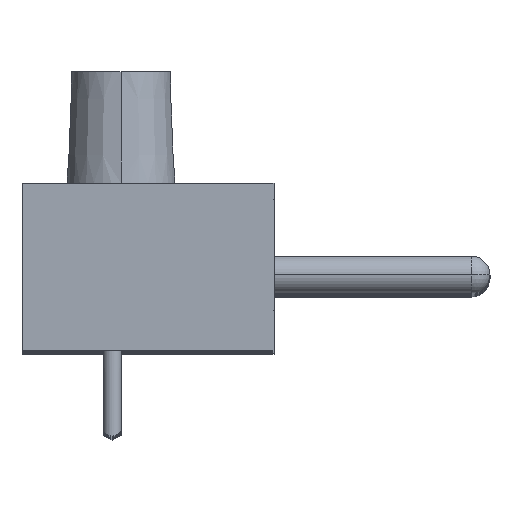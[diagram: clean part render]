
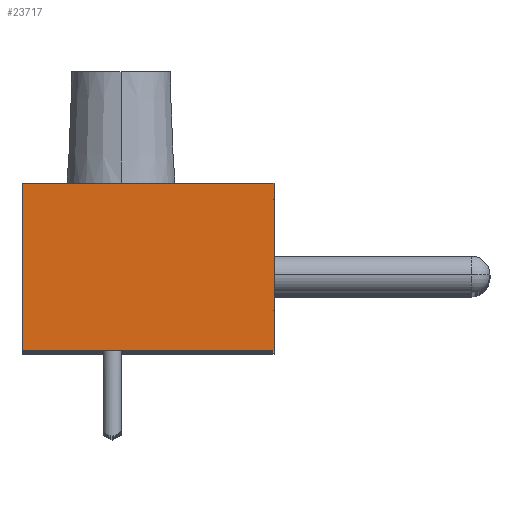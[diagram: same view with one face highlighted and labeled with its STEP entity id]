
A CAD part, top view. The second image highlights one B-rep face of the part: STEP entity #23717.
In plain terms, the highlighted planar face has unit normal (0, 0, 1).
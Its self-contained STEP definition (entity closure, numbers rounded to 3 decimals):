
#22597 = VERTEX_POINT ( 'NONE', #40333 ) ;
#22599 = EDGE_CURVE ( 'NONE', #22597, #22600, #40332, .T. ) ;
#22600 = VERTEX_POINT ( 'NONE', #40328 ) ;
#23646 = VERTEX_POINT ( 'NONE', #42050 ) ;
#23648 = EDGE_CURVE ( 'NONE', #23646, #22597, #42049, .T. ) ;
#23717 = ADVANCED_FACE ( 'NONE', ( #42114 ), #42113, .T. ) ;
#23718 = EDGE_LOOP ( 'NONE', ( #23719, #23722, #23723, #23724 ) ) ;
#23719 = ORIENTED_EDGE ( 'NONE', *, *, #23720, .F. ) ;
#23720 = EDGE_CURVE ( 'NONE', #22600, #23721, #42108, .T. ) ;
#23721 = VERTEX_POINT ( 'NONE', #42104 ) ;
#23722 = ORIENTED_EDGE ( 'NONE', *, *, #22599, .F. ) ;
#23723 = ORIENTED_EDGE ( 'NONE', *, *, #23648, .F. ) ;
#23724 = ORIENTED_EDGE ( 'NONE', *, *, #23725, .F. ) ;
#23725 = EDGE_CURVE ( 'NONE', #23721, #23646, #42103, .T. ) ;
#40328 = CARTESIAN_POINT ( 'NONE',  ( -7., 0., 0. ) ) ;
#40329 = DIRECTION ( 'NONE',  ( -1., 0., 0. ) ) ;
#40330 = VECTOR ( 'NONE', #40329, 1000. ) ;
#40331 = CARTESIAN_POINT ( 'NONE',  ( -7., 0., 0. ) ) ;
#40332 = LINE ( 'NONE', #40331, #40330 ) ;
#40333 = CARTESIAN_POINT ( 'NONE',  ( 7., 0., 0. ) ) ;
#42046 = DIRECTION ( 'NONE',  ( 0., -1., 0. ) ) ;
#42047 = VECTOR ( 'NONE', #42046, 1000. ) ;
#42048 = CARTESIAN_POINT ( 'NONE',  ( 7., 0., 0. ) ) ;
#42049 = LINE ( 'NONE', #42048, #42047 ) ;
#42050 = CARTESIAN_POINT ( 'NONE',  ( 7., 9.3, 0. ) ) ;
#42100 = DIRECTION ( 'NONE',  ( 1., 0., 0. ) ) ;
#42101 = VECTOR ( 'NONE', #42100, 1000. ) ;
#42102 = CARTESIAN_POINT ( 'NONE',  ( 7., 9.3, 0. ) ) ;
#42103 = LINE ( 'NONE', #42102, #42101 ) ;
#42104 = CARTESIAN_POINT ( 'NONE',  ( -7., 9.3, 0. ) ) ;
#42105 = DIRECTION ( 'NONE',  ( 0., 1., 0. ) ) ;
#42106 = VECTOR ( 'NONE', #42105, 1000. ) ;
#42107 = CARTESIAN_POINT ( 'NONE',  ( -7., 0., 0. ) ) ;
#42108 = LINE ( 'NONE', #42107, #42106 ) ;
#42109 = DIRECTION ( 'NONE',  ( 1., 0., 0. ) ) ;
#42110 = DIRECTION ( 'NONE',  ( 0., 0., 1. ) ) ;
#42111 = CARTESIAN_POINT ( 'NONE',  ( -7., 9.3, 0. ) ) ;
#42112 = AXIS2_PLACEMENT_3D ( 'NONE', #42111, #42110, #42109 ) ;
#42113 = PLANE ( 'NONE',  #42112 ) ;
#42114 = FACE_OUTER_BOUND ( 'NONE', #23718, .T. ) ;
